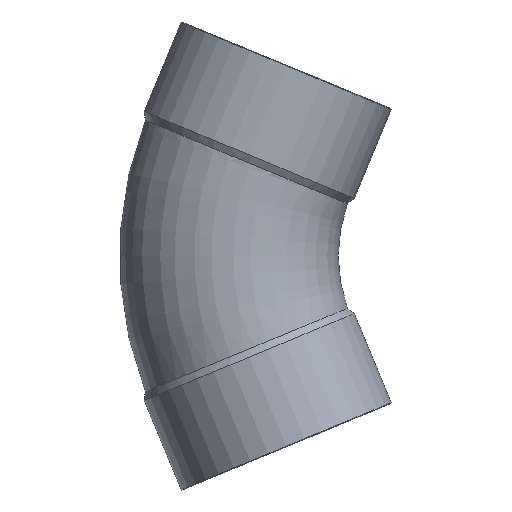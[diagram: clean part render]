
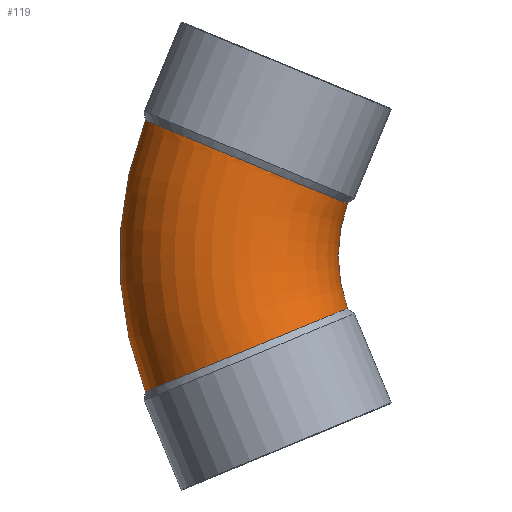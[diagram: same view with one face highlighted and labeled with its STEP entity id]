
A CAD part, front view. The second image highlights one B-rep face of the part: STEP entity #119.
In plain terms, the highlighted toroidal (fillet/blend) face has major radius 106.68 mm and minor radius 44.45 mm.
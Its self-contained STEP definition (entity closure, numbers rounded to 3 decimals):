
#44=CARTESIAN_POINT('',(4.435,0.,0.));
#45=DIRECTION('',(0.,1.0,0.));
#46=DIRECTION('',(-0.383,0.,0.924));
#47=AXIS2_PLACEMENT_3D('',#44,#45,#46);
#48=TOROIDAL_SURFACE('',#47,106.68,44.45);
#49=CARTESIAN_POINT('',(-136.251,0.,-55.206));
#50=VERTEX_POINT('',#49);
#51=CARTESIAN_POINT('',(-136.251,0.,55.206));
#52=VERTEX_POINT('',#51);
#53=CARTESIAN_POINT('',(4.435,0.,0.));
#54=DIRECTION('',(0.0,1.0,0.0));
#55=DIRECTION('',(0.0,0.0,1.0));
#56=AXIS2_PLACEMENT_3D('',#53,#54,#55);
#57=CIRCLE('',#56,151.13);
#58=EDGE_CURVE('',#50,#52,#57,.T.);
#59=ORIENTED_EDGE('',*,*,#58,.F.);
#60=CARTESIAN_POINT('',(-54.033,0.,-21.309));
#61=VERTEX_POINT('',#60);
#62=CARTESIAN_POINT('',(-136.251,0.,-55.206));
#63=CARTESIAN_POINT('',(-136.251,-3.277,-55.206));
#64=CARTESIAN_POINT('',(-135.916,-6.543,-55.068));
#65=CARTESIAN_POINT('',(-134.589,-12.938,-54.519));
#66=CARTESIAN_POINT('',(-133.6,-16.046,-54.111));
#67=CARTESIAN_POINT('',(-130.017,-24.24,-52.63));
#68=CARTESIAN_POINT('',(-126.807,-28.938,-51.303));
#69=CARTESIAN_POINT('',(-118.9,-36.741,-48.037));
#70=CARTESIAN_POINT('',(-114.28,-39.769,-46.128));
#71=CARTESIAN_POINT('',(-104.224,-43.74,-41.976));
#72=CARTESIAN_POINT('',(-98.885,-44.644,-39.772));
#73=CARTESIAN_POINT('',(-88.184,-44.187,-35.358));
#74=CARTESIAN_POINT('',(-82.926,-42.83,-33.19));
#75=CARTESIAN_POINT('',(-73.185,-38.012,-29.178));
#76=CARTESIAN_POINT('',(-68.797,-34.599,-27.373));
#77=CARTESIAN_POINT('',(-61.478,-26.148,-24.364));
#78=CARTESIAN_POINT('',(-58.617,-21.192,-23.189));
#79=CARTESIAN_POINT('',(-54.941,-10.739,-21.681));
#80=CARTESIAN_POINT('',(-54.033,-5.39,-21.309));
#81=CARTESIAN_POINT('',(-54.033,0.,-21.309));
#82=B_SPLINE_CURVE_WITH_KNOTS('',3,(#62,#63,#64,#65,#66,#67,#68,#69,#70,#71,#72,#73,#74,#75,#76,#77,#78,#79,#80,#81),.UNSPECIFIED.,.F.,.U.,(4,2,2,2,2,2,2,2,2,4),(-28.017,-27.034,-26.051,-24.315,-22.578,-20.84,-19.103,-17.365,-15.629,-14.01),.UNSPECIFIED.);
#83=EDGE_CURVE('',#50,#61,#82,.T.);
#84=ORIENTED_EDGE('',*,*,#83,.T.);
#85=CARTESIAN_POINT('',(-54.033,0.,21.309));
#86=VERTEX_POINT('',#85);
#87=CARTESIAN_POINT('',(4.435,0.,0.));
#88=DIRECTION('',(0.0,-1.0,0.0));
#89=DIRECTION('',(0.0,0.0,1.0));
#90=AXIS2_PLACEMENT_3D('',#87,#88,#89);
#91=CIRCLE('',#90,62.23);
#92=EDGE_CURVE('',#86,#61,#91,.T.);
#93=ORIENTED_EDGE('',*,*,#92,.F.);
#94=CARTESIAN_POINT('',(-54.033,0.,21.309));
#95=CARTESIAN_POINT('',(-54.033,-0.387,21.309));
#96=CARTESIAN_POINT('',(-54.038,-0.773,21.311));
#97=CARTESIAN_POINT('',(-54.187,-6.945,21.372));
#98=CARTESIAN_POINT('',(-55.371,-12.644,21.858));
#99=CARTESIAN_POINT('',(-59.696,-23.236,23.632));
#100=CARTESIAN_POINT('',(-62.796,-28.025,24.906));
#101=CARTESIAN_POINT('',(-70.52,-36.052,28.081));
#102=CARTESIAN_POINT('',(-75.07,-39.212,29.954));
#103=CARTESIAN_POINT('',(-85.031,-43.467,34.058));
#104=CARTESIAN_POINT('',(-90.348,-44.523,36.25));
#105=CARTESIAN_POINT('',(-101.053,-44.37,40.667));
#106=CARTESIAN_POINT('',(-106.34,-43.163,42.849));
#107=CARTESIAN_POINT('',(-116.186,-38.627,46.915));
#108=CARTESIAN_POINT('',(-120.652,-35.34,48.76));
#109=CARTESIAN_POINT('',(-128.167,-27.101,51.865));
#110=CARTESIAN_POINT('',(-131.145,-22.227,53.096));
#111=CARTESIAN_POINT('',(-135.206,-11.519,54.774));
#112=CARTESIAN_POINT('',(-136.251,-5.787,55.206));
#113=CARTESIAN_POINT('',(-136.251,0.,55.206));
#114=B_SPLINE_CURVE_WITH_KNOTS('',3,(#94,#95,#96,#97,#98,#99,#100,#101,#102,#103,#104,#105,#106,#107,#108,#109,#110,#111,#112,#113),.UNSPECIFIED.,.F.,.U.,(4,2,2,2,2,2,2,2,2,4),(-14.01,-13.894,-12.158,-10.421,-8.683,-6.946,-5.209,-3.472,-1.736,0.0),.UNSPECIFIED.);
#115=EDGE_CURVE('',#86,#52,#114,.T.);
#116=ORIENTED_EDGE('',*,*,#115,.T.);
#117=EDGE_LOOP('',(#59,#84,#93,#116));
#118=FACE_OUTER_BOUND('',#117,.T.);
#119=ADVANCED_FACE('',(#118),#48,.T.);
